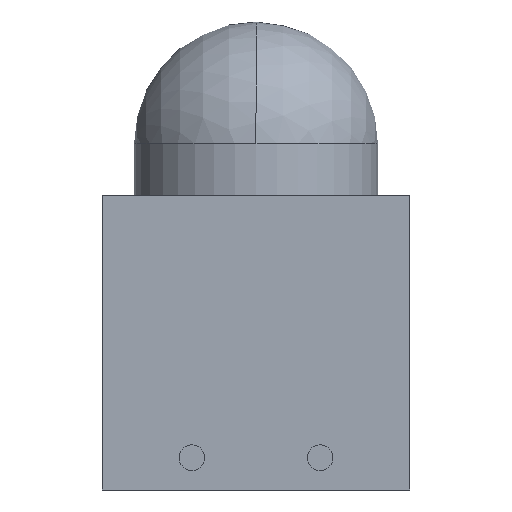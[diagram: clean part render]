
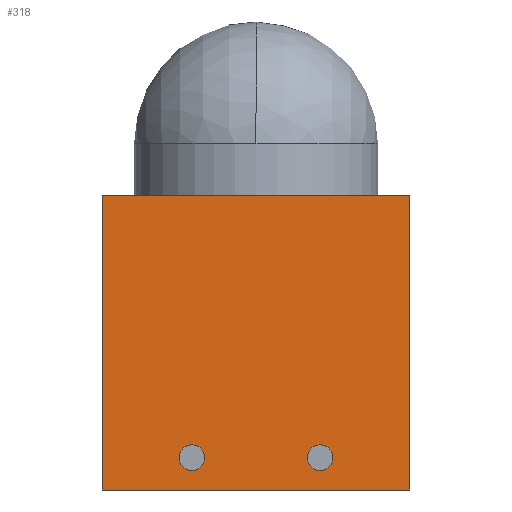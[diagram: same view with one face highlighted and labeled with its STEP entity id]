
A CAD part, front view. The second image highlights one B-rep face of the part: STEP entity #318.
In plain terms, the highlighted planar face has unit normal (0, -1, 0).
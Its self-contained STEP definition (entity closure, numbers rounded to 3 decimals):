
#3 = CARTESIAN_POINT ( 'NONE',  ( -3.05, 0., -5.84 ) ) ;
#26 = CARTESIAN_POINT ( 'NONE',  ( 3.05, 0., 0. ) ) ;
#28 = CARTESIAN_POINT ( 'NONE',  ( -3.05, 0., -5.84 ) ) ;
#32 = CARTESIAN_POINT ( 'NONE',  ( -3.05, 0., 0. ) ) ;
#33 = CARTESIAN_POINT ( 'NONE',  ( -1.27, 0., -4.946 ) ) ;
#49 = CARTESIAN_POINT ( 'NONE',  ( -1.27, 0., -5.454 ) ) ;
#50 = CARTESIAN_POINT ( 'NONE',  ( 3.05, 0., -5.84 ) ) ;
#70 = DIRECTION ( 'NONE',  ( 0., 0., -1. ) ) ;
#71 = DIRECTION ( 'NONE',  ( 0., -1., 0. ) ) ;
#72 = CARTESIAN_POINT ( 'NONE',  ( -1.27, 0., -5.2 ) ) ;
#91 = CARTESIAN_POINT ( 'NONE',  ( 3.05, 0., 0. ) ) ;
#99 = DIRECTION ( 'NONE',  ( 0., 0., -1. ) ) ;
#105 = DIRECTION ( 'NONE',  ( 0., 0., 1. ) ) ;
#106 = DIRECTION ( 'NONE',  ( 0., -1., 0. ) ) ;
#107 = CARTESIAN_POINT ( 'NONE',  ( 1.27, 0., -5.2 ) ) ;
#138 = DIRECTION ( 'NONE',  ( 0., 0., 1. ) ) ;
#139 = DIRECTION ( 'NONE',  ( 1., 0., 0. ) ) ;
#143 = CARTESIAN_POINT ( 'NONE',  ( -3.05, 0., 0. ) ) ;
#145 = CARTESIAN_POINT ( 'NONE',  ( -3.05, 0., 0. ) ) ;
#148 = DIRECTION ( 'NONE',  ( 0., 0., 1. ) ) ;
#149 = DIRECTION ( 'NONE',  ( 0., -1., 0. ) ) ;
#152 = CARTESIAN_POINT ( 'NONE',  ( 1.27, 0., -5.2 ) ) ;
#170 = DIRECTION ( 'NONE',  ( -1., 0., 0. ) ) ;
#171 = CARTESIAN_POINT ( 'NONE',  ( -3.05, 0., -5.84 ) ) ;
#172 = DIRECTION ( 'NONE',  ( 0., 0., -1. ) ) ;
#173 = DIRECTION ( 'NONE',  ( 0., -1., 0. ) ) ;
#174 = CARTESIAN_POINT ( 'NONE',  ( -1.27, 0., -5.2 ) ) ;
#180 = DIRECTION ( 'NONE',  ( 0., -1., 0. ) ) ;
#201 = CARTESIAN_POINT ( 'NONE',  ( 1.27, 0., -4.946 ) ) ;
#202 = CARTESIAN_POINT ( 'NONE',  ( 1.27, 0., -5.454 ) ) ;
#231 = DIRECTION ( 'NONE',  ( 0., 0., -1. ) ) ;
#278 = PLANE ( 'NONE',  #596 ) ;
#303 = EDGE_LOOP ( 'NONE', ( #398, #397 ) ) ;
#318 = ADVANCED_FACE ( 'NONE', ( #447, #449, #442 ), #278, .T. ) ;
#391 = ORIENTED_EDGE ( 'NONE', *, *, #636, .F. ) ;
#392 = ORIENTED_EDGE ( 'NONE', *, *, #604, .F. ) ;
#393 = ORIENTED_EDGE ( 'NONE', *, *, #629, .F. ) ;
#394 = ORIENTED_EDGE ( 'NONE', *, *, #644, .F. ) ;
#395 = ORIENTED_EDGE ( 'NONE', *, *, #583, .F. ) ;
#396 = ORIENTED_EDGE ( 'NONE', *, *, #630, .F. ) ;
#397 = ORIENTED_EDGE ( 'NONE', *, *, #570, .F. ) ;
#398 = ORIENTED_EDGE ( 'NONE', *, *, #645, .F. ) ;
#442 = FACE_BOUND ( 'NONE', #674, .T. ) ;
#447 = FACE_BOUND ( 'NONE', #303, .T. ) ;
#449 = FACE_OUTER_BOUND ( 'NONE', #675, .T. ) ;
#481 = CIRCLE ( 'NONE', #547, 0.254 ) ;
#489 = CIRCLE ( 'NONE', #550, 0.254 ) ;
#492 = LINE ( 'NONE', #171, #494 ) ;
#494 = VECTOR ( 'NONE', #170, 1000. ) ;
#496 = LINE ( 'NONE', #143, #502 ) ;
#499 = LINE ( 'NONE', #145, #504 ) ;
#502 = VECTOR ( 'NONE', #139, 1000. ) ;
#504 = VECTOR ( 'NONE', #138, 1000. ) ;
#510 = CIRCLE ( 'NONE', #541, 0.254 ) ;
#520 = VERTEX_POINT ( 'NONE', #202 ) ;
#521 = VERTEX_POINT ( 'NONE', #201 ) ;
#538 = AXIS2_PLACEMENT_3D ( 'NONE', #72, #71, #70 ) ;
#541 = AXIS2_PLACEMENT_3D ( 'NONE', #107, #106, #105 ) ;
#547 = AXIS2_PLACEMENT_3D ( 'NONE', #152, #149, #148 ) ;
#550 = AXIS2_PLACEMENT_3D ( 'NONE', #174, #173, #172 ) ;
#570 = EDGE_CURVE ( 'NONE', #656, #664, #489, .T. ) ;
#583 = EDGE_CURVE ( 'NONE', #665, #670, #492, .T. ) ;
#596 = AXIS2_PLACEMENT_3D ( 'NONE', #3, #180, #231 ) ;
#604 = EDGE_CURVE ( 'NONE', #521, #520, #481, .T. ) ;
#629 = EDGE_CURVE ( 'NONE', #666, #676, #496, .T. ) ;
#630 = EDGE_CURVE ( 'NONE', #670, #666, #499, .T. ) ;
#636 = EDGE_CURVE ( 'NONE', #520, #521, #510, .T. ) ;
#644 = EDGE_CURVE ( 'NONE', #676, #665, #694, .T. ) ;
#645 = EDGE_CURVE ( 'NONE', #664, #656, #695, .T. ) ;
#656 = VERTEX_POINT ( 'NONE', #49 ) ;
#664 = VERTEX_POINT ( 'NONE', #33 ) ;
#665 = VERTEX_POINT ( 'NONE', #50 ) ;
#666 = VERTEX_POINT ( 'NONE', #32 ) ;
#670 = VERTEX_POINT ( 'NONE', #28 ) ;
#674 = EDGE_LOOP ( 'NONE', ( #392, #391 ) ) ;
#675 = EDGE_LOOP ( 'NONE', ( #396, #395, #394, #393 ) ) ;
#676 = VERTEX_POINT ( 'NONE', #26 ) ;
#694 = LINE ( 'NONE', #91, #696 ) ;
#695 = CIRCLE ( 'NONE', #538, 0.254 ) ;
#696 = VECTOR ( 'NONE', #99, 1000. ) ;
